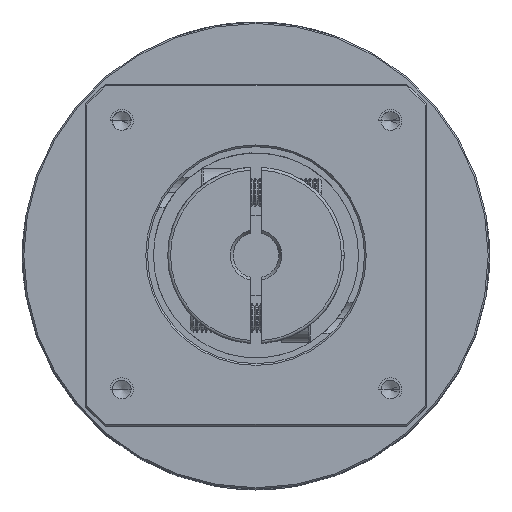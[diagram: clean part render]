
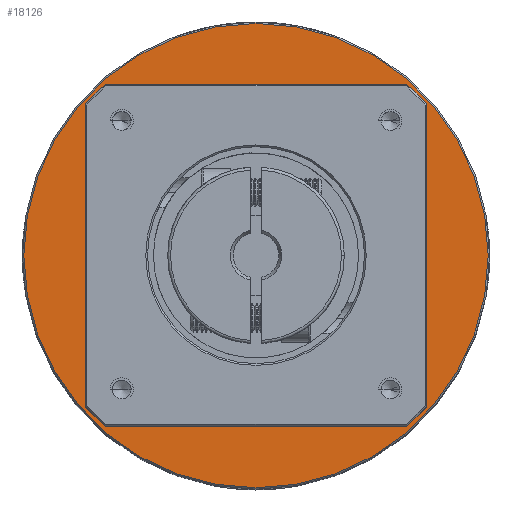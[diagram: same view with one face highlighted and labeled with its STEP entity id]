
A CAD part, top view. The second image highlights one B-rep face of the part: STEP entity #18126.
In plain terms, the highlighted planar face has unit normal (0, 0, 1).
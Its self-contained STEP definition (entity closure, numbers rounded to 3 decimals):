
#2195 = CIRCLE ( 'NONE', #54386, 30. ) ;
#5389 = DIRECTION ( 'NONE',  ( -1., 0., 0. ) ) ;
#13293 = CARTESIAN_POINT ( 'NONE',  ( -58.531, 18.322, -38.007 ) ) ;
#14778 = CARTESIAN_POINT ( 'NONE',  ( -58.531, 18.322, -38.007 ) ) ;
#18126 = ADVANCED_FACE ( 'NONE', ( #72769, #124038 ), #94219, .T. ) ;
#18493 = ORIENTED_EDGE ( 'NONE', *, *, #22101, .F. ) ;
#22101 = EDGE_CURVE ( 'NONE', #69790, #84462, #70777, .T. ) ;
#23019 = DIRECTION ( 'NONE',  ( -1., 0., 0. ) ) ;
#24541 = DIRECTION ( 'NONE',  ( -1., 0., 0. ) ) ;
#27092 = CARTESIAN_POINT ( 'NONE',  ( -58.531, 18.322, -38.007 ) ) ;
#31268 = CARTESIAN_POINT ( 'NONE',  ( -17.781, 18.322, -38.007 ) ) ;
#36781 = DIRECTION ( 'NONE',  ( 1., 0., 0. ) ) ;
#38785 = ORIENTED_EDGE ( 'NONE', *, *, #119435, .T. ) ;
#39371 = CARTESIAN_POINT ( 'NONE',  ( -28.531, 18.322, -38.007 ) ) ;
#42851 = AXIS2_PLACEMENT_3D ( 'NONE', #115757, #57911, #125368 ) ;
#44549 = CIRCLE ( 'NONE', #97450, 30. ) ;
#52562 = EDGE_CURVE ( 'NONE', #84462, #69790, #79670, .T. ) ;
#54143 = EDGE_CURVE ( 'NONE', #65149, #72070, #2195, .T. ) ;
#54386 = AXIS2_PLACEMENT_3D ( 'NONE', #14778, #82404, #24541 ) ;
#56678 = ORIENTED_EDGE ( 'NONE', *, *, #54143, .T. ) ;
#56739 = CARTESIAN_POINT ( 'NONE',  ( -99.281, 18.322, -38.007 ) ) ;
#57911 = DIRECTION ( 'NONE',  ( 0., 0., -1. ) ) ;
#60532 = ORIENTED_EDGE ( 'NONE', *, *, #52562, .F. ) ;
#63373 = DIRECTION ( 'NONE',  ( 0., 0., -1. ) ) ;
#65149 = VERTEX_POINT ( 'NONE', #96195 ) ;
#69790 = VERTEX_POINT ( 'NONE', #56739 ) ;
#70691 = EDGE_LOOP ( 'NONE', ( #18493, #60532 ) ) ;
#70777 = CIRCLE ( 'NONE', #42851, 40.75 ) ;
#72070 = VERTEX_POINT ( 'NONE', #39371 ) ;
#72769 = FACE_OUTER_BOUND ( 'NONE', #70691, .T. ) ;
#75137 = EDGE_LOOP ( 'NONE', ( #56678, #38785 ) ) ;
#79670 = CIRCLE ( 'NONE', #114899, 40.75 ) ;
#80945 = DIRECTION ( 'NONE',  ( 0., 0., -1. ) ) ;
#82404 = DIRECTION ( 'NONE',  ( 0., 0., -1. ) ) ;
#84462 = VERTEX_POINT ( 'NONE', #31268 ) ;
#94219 = PLANE ( 'NONE',  #111780 ) ;
#94624 = DIRECTION ( 'NONE',  ( 0., 0., 1. ) ) ;
#96195 = CARTESIAN_POINT ( 'NONE',  ( -88.531, 18.322, -38.007 ) ) ;
#97450 = AXIS2_PLACEMENT_3D ( 'NONE', #13293, #80945, #23019 ) ;
#111780 = AXIS2_PLACEMENT_3D ( 'NONE', #27092, #94624, #36781 ) ;
#114899 = AXIS2_PLACEMENT_3D ( 'NONE', #121113, #63373, #5389 ) ;
#115757 = CARTESIAN_POINT ( 'NONE',  ( -58.531, 18.322, -38.007 ) ) ;
#119435 = EDGE_CURVE ( 'NONE', #72070, #65149, #44549, .T. ) ;
#121113 = CARTESIAN_POINT ( 'NONE',  ( -58.531, 18.322, -38.007 ) ) ;
#124038 = FACE_BOUND ( 'NONE', #75137, .T. ) ;
#125368 = DIRECTION ( 'NONE',  ( -1., 0., 0. ) ) ;
